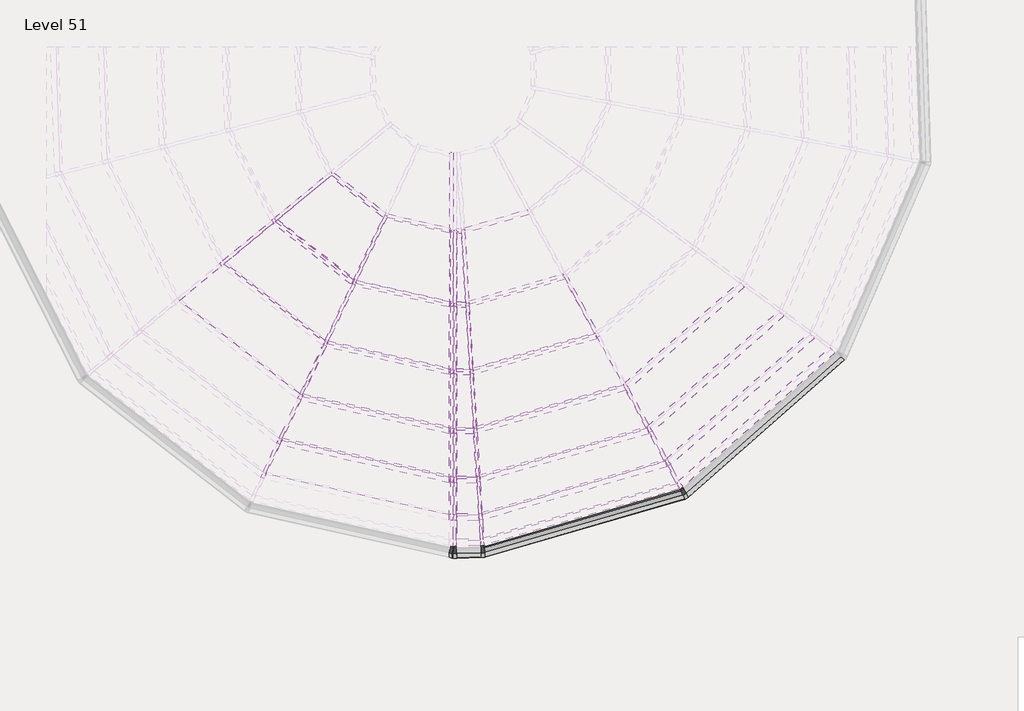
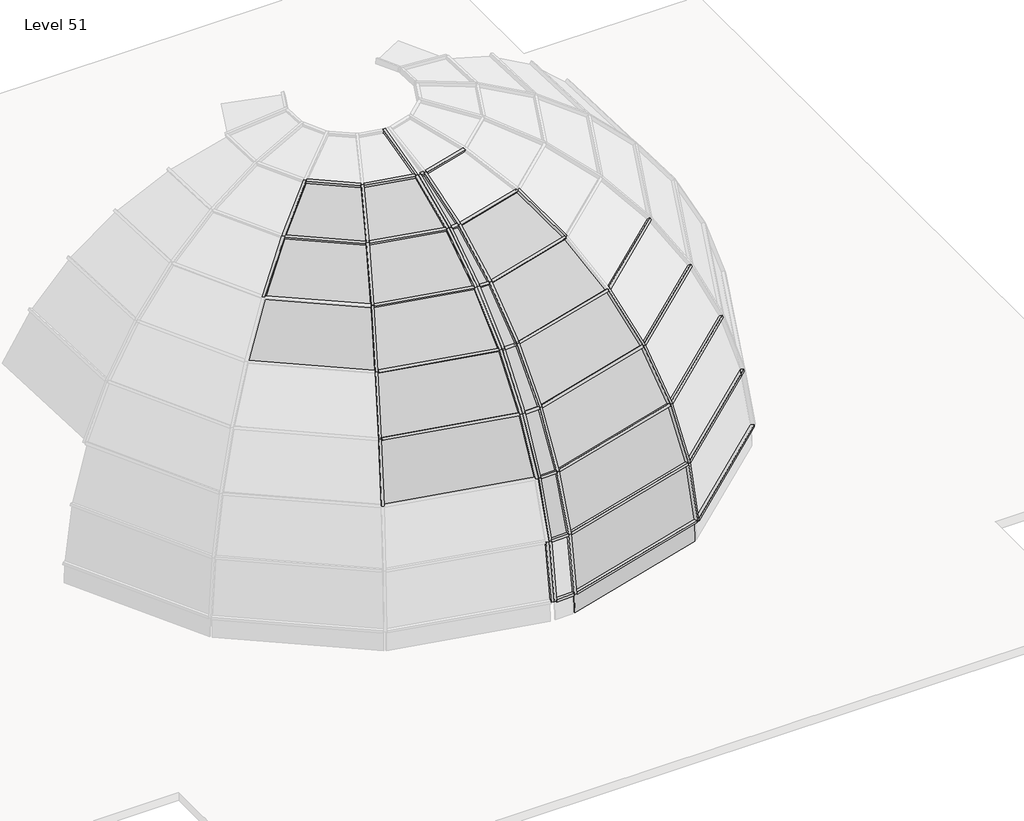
# One storey, part 2 of 5: 61 members, 21 plates.
"""IFC4 building model written with IfcOpenShell, lengths in millimetres."""

from ifc_helpers import new_model, si_unit, origin, place, context, project, spatial, transform, mapped, element, save
from components import member_d183bd50, member_3761eb40, member_c8fdef67, member_bab2e2f0, member_1b14bcb5, member_4ad3c4be, member_44404943, member_d9f9b3f1, member_bd7755a3, member_65743db0, member_8796500f, member_d21742c5, member_627e65e0, member_8f2bf440, member_7aba495a, member_8cadeb42, member_01029f2d, member_43068072, member_3efaebad, member_d292a8f8, member_6dba6968, member_1612663b, member_5eaec6db, member_6411af83, member_606bd935, member_34720ac7, member_73d42494, member_53f4afea, member_ac0e8256, member_b7186879, member_3d04d663, member_84afa52a, member_1f719ff4, member_3d2e33c7, member_de41bbd8, member_05436e89, member_70710cef, system_panel_glazed_fa418351, system_panel_glazed_b3b66b1f, system_panel_glazed_ead5900b, system_panel_glazed_748e87ae, system_panel_glazed_0b4b9341, system_panel_glazed_03609b2e, system_panel_glazed_facd528d, system_panel_glazed_891999a5, system_panel_glazed_df0c418a, system_panel_glazed_607d1a2e, system_panel_glazed_cbcbf4f6, system_panel_glazed_3a6c43c9, system_panel_glazed_65fa72c3, system_panel_glazed_e82b84bd, system_panel_glazed_8c73bb97, system_panel_glazed_11359935, system_panel_glazed_cbb9f742, system_panel_glazed_44e6ebe2, system_panel_glazed_4a3a9a20

model = new_model("IFC4")

# Units and contexts
model_context = context("Model", 3, world=origin())
ifc_project = project(units=[si_unit("LENGTHUNIT", "METRE", prefix="MILLI")], contexts=[model_context])

# Site, building, storey
site = spatial("IfcSite", under=ifc_project)
building = spatial("IfcBuilding", under=site)
storey = spatial("IfcBuildingStorey", under=building, Name="Level 51", Elevation=152400.0)

# Members
placement = place(None, origin())
member_shape = member_d183bd50(model_context)
element("IfcMember", 1, ObjectType="Rectangular Mullion : 2.5\" x 5\" rectangular", at=placement, inside=storey, context=model_context, shape_type="MappedRepresentation", body=[
    mapped(member_shape, transform((7928.9656184, -14165.5650135, 153025.5719668), x_axis=(0.046310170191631, -0.05261776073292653, -0.9975403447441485), y_axis=(0.65905543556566, -0.7488208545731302, 0.07009465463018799), z_axis=(-0.7506672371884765, -0.6606804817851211, 0.0))),
])
element("IfcMember", 2, ObjectType="Rectangular Mullion : 2.5\" x 5\" rectangular", at=placement, inside=storey, context=model_context, shape_type="MappedRepresentation", body=[
    mapped(member_shape, transform((4111.1962072, -15284.691929, 153025.5719668), x_axis=(0.01948884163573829, -0.06733086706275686, -0.9975403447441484), y_axis=(0.2773521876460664, -0.9582079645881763, 0.07009465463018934), z_axis=(-0.9605706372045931, -0.2780360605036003, 0.0))),
])
member_2_shape = member_3761eb40(model_context)
element("IfcMember", 3, ObjectType="Rectangular Mullion : 2.5\" x 5\" rectangular", at=placement, inside=storey, context=model_context, shape_type="MappedRepresentation", body=[
    mapped(member_2_shape, transform((3581.1067798, -15308.9521017, 153025.5719668), x_axis=(0.002113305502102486, -0.06841322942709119, -0.9976548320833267), y_axis=(0.030803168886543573, -0.9971791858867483, 0.06844586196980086), z_axis=(-0.9995232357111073, -0.030875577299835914, 0.0))),
])
member_3_shape = member_c8fdef67(model_context)
element("IfcMember", 4, ObjectType="Rectangular Mullion : 2.5\" x 5\" rectangular", at=placement, inside=storey, context=model_context, shape_type="MappedRepresentation", body=[
    mapped(member_3_shape, transform((3581.1067798, -14600.7492346, 155979.2538554), x_axis=(0.012090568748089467, -0.3914033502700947, -0.9201397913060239), y_axis=(0.028409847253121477, -0.9197011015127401, 0.39159004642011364), z_axis=(-0.9995232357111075, -0.030875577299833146, 0.0))),
])
member_4_shape = member_bab2e2f0(model_context)
element("IfcMember", 5, ObjectType="Rectangular Mullion : 2.5\" x 5\" rectangular", at=placement, inside=storey, context=model_context, shape_type="MappedRepresentation", body=[
    mapped(member_4_shape, transform((7818.0578931, -13963.3852376, 154532.0243606), x_axis=(0.15763498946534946, -0.17910536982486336, -0.9711191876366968), y_axis=(0.6415994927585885, -0.7289873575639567, 0.2385948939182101), z_axis=(-0.7506672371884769, -0.6606804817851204, 0.0))),
])
element("IfcMember", 6, ObjectType="Rectangular Mullion : 2.5\" x 5\" rectangular", at=placement, inside=storey, context=model_context, shape_type="MappedRepresentation", body=[
    mapped(member_4_shape, transform((4096.9630695, -15054.5298054, 154532.0243606), x_axis=(0.06633798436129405, -0.22918724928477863, -0.9711191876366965), y_axis=(0.2700061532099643, -0.9328285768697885, 0.23859489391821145), z_axis=(-0.9605706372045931, -0.27803606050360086, 0.0))),
])
member_5_shape = member_1b14bcb5(model_context)
element("IfcMember", 7, ObjectType="Rectangular Mullion : 2.5\" x 5\" rectangular", at=placement, inside=storey, context=model_context, shape_type="MappedRepresentation", body=[
    mapped(member_5_shape, transform((3581.1067798, -15078.3503121, 154532.0243606), x_axis=(0.007202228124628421, -0.23315497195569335, -0.9724129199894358), y_axis=(0.030023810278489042, -0.9719493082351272, 0.2332661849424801), z_axis=(-0.9995232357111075, -0.030875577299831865, 0.0))),
])
member_6_shape = member_4ad3c4be(model_context)
element("IfcMember", 8, ObjectType="Rectangular Mullion : 2.5\" x 5\" rectangular", at=placement, inside=storey, context=model_context, shape_type="MappedRepresentation", body=[
    mapped(member_6_shape, transform((7246.2407855, -12920.9884674, 157327.0596321), x_axis=(0.3621663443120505, -0.41149453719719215, -0.8363658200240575), y_axis=(0.5525705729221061, -0.62783241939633, 0.5481717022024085), z_axis=(-0.7506672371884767, -0.6606804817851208, 0.0))),
])
element("IfcMember", 9, ObjectType="Rectangular Mullion : 2.5\" x 5\" rectangular", at=placement, inside=storey, context=model_context, shape_type="MappedRepresentation", body=[
    mapped(member_6_shape, transform((4023.5799793, -13867.8618851, 157327.0596321), x_axis=(0.15241150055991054, -0.5265576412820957, -0.8363658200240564), y_axis=(0.23253985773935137, -0.8033884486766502, 0.5481717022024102), z_axis=(-0.9605706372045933, -0.27803606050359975, 0.0))),
])
member_7_shape = member_44404943(model_context)
element("IfcMember", 10, ObjectType="Rectangular Mullion : 2.5\" x 5\" rectangular", at=placement, inside=storey, context=model_context, shape_type="MappedRepresentation", body=[
    mapped(member_7_shape, transform((3581.1067798, -13889.4155658, 157327.0596321), x_axis=(0.016642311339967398, -0.5387551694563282, -0.8422979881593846), y_axis=(0.02600643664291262, -0.841896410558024, 0.5390121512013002), z_axis=(-0.9995232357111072, -0.030875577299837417, 0.0))),
])
member_8_shape = member_d9f9b3f1(model_context)
element("IfcMember", 11, ObjectType="Rectangular Mullion : 2.5\" x 5\" rectangular", at=placement, inside=storey, context=model_context, shape_type="MappedRepresentation", body=[
    mapped(member_8_shape, transform((4067.4847125, -14577.8393233, 155979.2538554), x_axis=(0.11109508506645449, -0.3838159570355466, -0.9167023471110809), y_axis=(0.2548763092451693, -0.8805573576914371, 0.3995707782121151), z_axis=(-0.9605706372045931, -0.27803606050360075, 0.0))),
])
element("IfcMember", 12, ObjectType="Rectangular Mullion : 2.5\" x 5\" rectangular", at=placement, inside=storey, context=model_context, shape_type="MappedRepresentation", body=[
    mapped(member_8_shape, transform((7588.3560801, -13544.6492034, 155979.2538554), x_axis=(0.2639886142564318, -0.2999446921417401, -0.9167023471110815), y_axis=(0.6056473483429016, -0.6881384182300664, 0.39957077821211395), z_axis=(-0.7506672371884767, -0.6606804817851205, 0.0))),
])
member_9_shape = member_bd7755a3(model_context)
element("IfcMember", 13, ObjectType="Rectangular Mullion : 2.5\" x 5\" rectangular", at=placement, inside=storey, context=model_context, shape_type="MappedRepresentation", body=[
    mapped(member_9_shape, transform((3897.7365439, -11832.8648931, 159578.4455769), x_axis=(0.22029247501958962, -0.7610756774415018, -0.6101106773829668), y_axis=(0.16963276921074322, -0.5860544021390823, 0.7923162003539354), z_axis=(-0.9605706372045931, -0.27803606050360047, 0.0))),
])
member_10_shape = member_65743db0(model_context)
element("IfcMember", 14, ObjectType="Rectangular Mullion : 2.5\" x 5\" rectangular", at=placement, inside=storey, context=model_context, shape_type="MappedRepresentation", body=[
    mapped(member_10_shape, transform((1136.1578333, -11319.9768884, 159578.4455769), x_axis=(-0.1728975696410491, -0.7732214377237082, -0.6101106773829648), y_axis=(-0.13313706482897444, -0.5954070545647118, 0.7923162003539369), z_axis=(-0.975900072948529, 0.21821789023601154, 0.0))),
])
member_11_shape = member_8796500f(model_context)
element("IfcMember", 15, ObjectType="Rectangular Mullion : 2.5\" x 5\" rectangular", at=placement, inside=storey, context=model_context, shape_type="MappedRepresentation", body=[
    mapped(member_11_shape, transform((3581.1067798, -10579.6162425, 160419.4872466), x_axis=(0.02708153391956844, -0.8767001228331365, -0.48027438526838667), y_axis=(0.014828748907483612, -0.4800454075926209, 0.8771183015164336), z_axis=(-0.9995232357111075, -0.030875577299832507, 0.0))),
])
member_12_shape = member_d21742c5(model_context)
element("IfcMember", 16, ObjectType="Rectangular Mullion : 2.5\" x 5\" rectangular", at=placement, inside=storey, context=model_context, shape_type="MappedRepresentation", body=[
    mapped(member_12_shape, transform((156.8135256, -9007.1230151, 160419.4872466), x_axis=(-0.540671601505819, -0.6966994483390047, -0.4714701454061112), y_axis=(-0.2890528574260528, -0.3724681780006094, 0.8818820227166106), z_axis=(-0.7900143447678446, 0.6130883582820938, 0.0))),
])
element("IfcMember", 17, ObjectType="Rectangular Mullion : 2.5\" x 5\" rectangular", at=placement, inside=storey, context=model_context, shape_type="MappedRepresentation", body=[
    mapped(member_12_shape, transform((3819.2934926, -10564.3730336, 160419.4872466), x_axis=(0.24519500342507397, -0.8471099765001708, -0.4714701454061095), y_axis=(0.13108570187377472, -0.45288037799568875, 0.8818820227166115), z_axis=(-0.9605706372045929, -0.27803606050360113, 0.0))),
])
member_13_shape = member_627e65e0(model_context)
element("IfcMember", 18, ObjectType="Rectangular Mullion : 2.5\" x 5\" rectangular", at=placement, inside=storey, context=model_context, shape_type="MappedRepresentation", body=[
    mapped(member_13_shape, transform((1677.4630352, -10170.101422, 160419.4872466), x_axis=(-0.1924424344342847, -0.8606287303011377, -0.47147014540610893), y_axis=(-0.1028832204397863, -0.46010774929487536, 0.8818820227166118), z_axis=(-0.9759000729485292, 0.21821789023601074, 0.0))),
])
member_14_shape = member_8f2bf440(model_context)
element("IfcMember", 19, ObjectType="Rectangular Mullion : 2.5\" x 5\" rectangular", at=placement, inside=storey, context=model_context, shape_type="MappedRepresentation", body=[
    mapped(member_14_shape, transform((1230.3711344, -8119.5520556, 161037.7653816), x_axis=(-0.5806365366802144, -0.7481975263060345, -0.321032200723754), y_axis=(-0.19682110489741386, -0.25362004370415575, 0.9470682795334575), z_axis=(-0.7900143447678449, 0.6130883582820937, 0.0))),
])
element("IfcMember", 20, ObjectType="Rectangular Mullion : 2.5\" x 5\" rectangular", at=placement, inside=storey, context=model_context, shape_type="MappedRepresentation", body=[
    mapped(member_14_shape, transform((3733.3182657, -9174.0793927, 161037.7653816), x_axis=(0.26331913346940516, -0.9097259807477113, -0.32103220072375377), y_axis=(0.08925852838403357, -0.308374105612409, 0.9470682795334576), z_axis=(-0.9605706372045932, -0.27803606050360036, 0.0))),
])
member_15_shape = member_7aba495a(model_context)
element("IfcMember", 21, ObjectType="Rectangular Mullion : 2.5\" x 5\" rectangular", at=placement, inside=storey, context=model_context, shape_type="MappedRepresentation", body=[
    mapped(member_15_shape, transform((2270.7448716, -8909.8138317, 161037.7653816), x_axis=(-0.20666724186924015, -0.9242440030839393, -0.32103220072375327), y_axis=(-0.07005496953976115, -0.3132953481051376, 0.9470682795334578), z_axis=(-0.975900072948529, 0.21821789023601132, 0.0))),
])
member_16_shape = member_8cadeb42(model_context)
element("IfcMember", 22, ObjectType="Rectangular Mullion : 2.5\" x 5\" rectangular", at=placement, inside=storey, context=model_context, shape_type="MappedRepresentation", body=[
    mapped(member_16_shape, transform((3581.1067798, -9186.6668006, 161037.7653816), x_axis=(0.029167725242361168, -0.9442355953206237, -0.32797619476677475), y_axis=(0.010126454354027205, -0.3278198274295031, 0.9446859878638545), z_axis=(-0.9995232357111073, -0.030875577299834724, 0.0))),
])
member_17_shape = member_01029f2d(model_context)
element("IfcMember", 23, ObjectType="Rectangular Mullion : 2.5\" x 5\" rectangular", at=placement, inside=storey, context=model_context, shape_type="MappedRepresentation", body=[
    mapped(member_17_shape, transform((6801.2152117, -12109.726939, 158538.0026411), x_axis=(0.44940619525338, -0.5106167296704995, -0.7330106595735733), y_axis=(0.48428583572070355, -0.550247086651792, 0.6802171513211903), z_axis=(-0.7506672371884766, -0.6606804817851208, 0.0))),
])
element("IfcMember", 24, ObjectType="Rectangular Mullion : 2.5\" x 5\" rectangular", at=placement, inside=storey, context=model_context, shape_type="MappedRepresentation", body=[
    mapped(member_17_shape, transform((3966.4684459, -12944.3190861, 158538.0026411), x_axis=(0.18912489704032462, -0.6533966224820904, -0.7330106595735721), y_axis=(0.20380339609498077, -0.7041085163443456, 0.6802171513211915), z_axis=(-0.9605706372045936, -0.2780360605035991, 0.0))),
])
member_18_shape = member_43068072(model_context)
element("IfcMember", 25, ObjectType="Rectangular Mullion : 2.5\" x 5\" rectangular", at=placement, inside=storey, context=model_context, shape_type="MappedRepresentation", body=[
    mapped(member_18_shape, transform((3581.1067798, -12964.1085742, 158538.0026411), x_axis=(0.02073097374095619, -0.6711158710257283, -0.7410625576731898), y_axis=(0.022880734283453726, -0.7407092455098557, 0.6714359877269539), z_axis=(-0.9995232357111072, -0.03087557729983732, 0.0))),
])
member_19_shape = member_3efaebad(model_context)
element("IfcMember", 26, ObjectType="Rectangular Mullion : 2.5\" x 5\" rectangular", at=placement, inside=storey, context=model_context, shape_type="MappedRepresentation", body=[
    mapped(member_19_shape, transform((267.7608868, -13164.681762, 157327.0596321), x_axis=(-0.11962087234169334, -0.5349608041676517, -0.836365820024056), y_axis=(-0.18250998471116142, -0.8162094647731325, 0.5481717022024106), z_axis=(-0.9759000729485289, 0.21821789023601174, 0.0))),
])
member_20_shape = member_d292a8f8(model_context)
element("IfcMember", 27, ObjectType="Rectangular Mullion : 2.5\" x 5\" rectangular", at=placement, inside=storey, context=model_context, shape_type="MappedRepresentation", body=[
    mapped(member_20_shape, transform((3581.1067798, -11850.5312318, 159578.4455769), x_axis=(0.024243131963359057, -0.7848136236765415, -0.6192574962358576), y_axis=(0.019119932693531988, -0.6189622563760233, 0.785187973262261), z_axis=(-0.9995232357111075, -0.03087557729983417, 0.0))),
])
member_21_shape = member_6dba6968(model_context)
element("IfcMember", 28, ObjectType="Rectangular Mullion : 2.5\" x 5\" rectangular", at=placement, inside=storey, context=model_context, shape_type="MappedRepresentation", body=[
    mapped(member_21_shape, transform((661.8655218, -12327.4992458, 158538.0026411), x_axis=(-0.14843555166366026, -0.663823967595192, -0.7330106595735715), y_axis=(-0.15995603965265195, -0.7153451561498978, 0.6802171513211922), z_axis=(-0.975900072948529, 0.2182178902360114, 0.0))),
])
member_22_shape = member_1612663b(model_context)
element("IfcMember", 29, ObjectType="Rectangular Mullion : 2.5\" x 5\" rectangular", at=placement, inside=storey, context=model_context, shape_type="MappedRepresentation", body=[
    mapped(member_22_shape, transform((1205.288179, -8100.0865002, 161037.7653816), x_axis=(-0.6371882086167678, 0.7707082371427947, 0.0), y_axis=(-0.31267194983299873, -0.2585036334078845, 0.9140088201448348), z_axis=(0.7044341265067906, 0.5823956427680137, 0.4056943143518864))),
])
element("IfcMember", 30, ObjectType="Rectangular Mullion : 2.5\" x 5\" rectangular", at=placement, inside=storey, context=model_context, shape_type="MappedRepresentation", body=[
    mapped(member_22_shape, transform((131.7305702, -8987.6574598, 160419.4872466), x_axis=(-0.6371882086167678, 0.7707082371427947, 0.0), y_axis=(-0.4253266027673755, -0.35164162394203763, 0.8339337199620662), z_axis=(0.6427195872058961, 0.5313727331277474, 0.5518646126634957))),
])
element("IfcMember", 31, ObjectType="Rectangular Mullion : 2.5\" x 5\" rectangular", at=placement, inside=storey, context=model_context, shape_type="MappedRepresentation", body=[
    mapped(member_22_shape, transform((2239.7600443, -8902.8854136, 161037.7653816), x_axis=(-0.9047619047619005, 0.4259177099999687, 0.0), y_axis=(-0.1727923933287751, -0.36705676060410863, 0.9140088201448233), z_axis=(0.38929254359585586, 0.8269603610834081, 0.4056943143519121))),
])
element("IfcMember", 32, ObjectType="Rectangular Mullion : 2.5\" x 5\" rectangular", at=placement, inside=storey, context=model_context, shape_type="MappedRepresentation", body=[
    mapped(member_22_shape, transform((1646.4782078, -10163.1730039, 160419.4872466), x_axis=(-0.9047619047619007, 0.4259177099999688, 0.0), y_axis=(-0.23504891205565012, -0.4993060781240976, 0.8339337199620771), z_axis=(0.35518714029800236, 0.7545114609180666, 0.5518646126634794))),
])
element("IfcMember", 33, ObjectType="Rectangular Mullion : 2.5\" x 5\" rectangular", at=placement, inside=storey, context=model_context, shape_type="MappedRepresentation", body=[
    mapped(member_22_shape, transform((1105.173006, -11313.0484704, 159578.4455769), x_axis=(-0.9047619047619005, 0.4259177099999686, 0.0), y_axis=(-0.290776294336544, -0.6176857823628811, 0.7306937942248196), z_axis=(0.31121542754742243, 0.6611039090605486, 0.6827053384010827))),
])
element("IfcMember", 34, ObjectType="Rectangular Mullion : 2.5\" x 5\" rectangular", at=placement, inside=storey, context=model_context, shape_type="MappedRepresentation", body=[
    mapped(member_22_shape, transform((630.8806944, -12320.5708278, 158538.0026411), x_axis=(-0.9047619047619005, 0.42591770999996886, 0.0), y_axis=(-0.3384265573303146, -0.7189075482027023, 0.6071568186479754), z_axis=(0.2585988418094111, 0.5493323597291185, 0.7945820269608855))),
])
element("IfcMember", 35, ObjectType="Rectangular Mullion : 2.5\" x 5\" rectangular", at=placement, inside=storey, context=model_context, shape_type="MappedRepresentation", body=[
    mapped(member_22_shape, transform((236.7760595, -13157.753344, 157327.0596321), x_axis=(-0.9047619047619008, 0.4259177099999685, 0.0), y_axis=(-0.37667608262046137, -0.8001596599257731, 0.46675437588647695), z_axis=(0.19879895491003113, 0.42230157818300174, 0.8843869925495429))),
])
element("IfcMember", 36, ObjectType="Rectangular Mullion : 2.5\" x 5\" rectangular", at=placement, inside=storey, context=model_context, shape_type="MappedRepresentation", body=[
    mapped(member_22_shape, transform((5630.5620632, -10040.1034397, 160419.4872466), x_axis=(-0.876748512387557, -0.4809491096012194, 0.0), y_axis=(0.2654187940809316, -0.48384647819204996, 0.8339337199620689), z_axis=(-0.4010796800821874, 0.7311501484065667, 0.5518646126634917))),
])
element("IfcMember", 37, ObjectType="Rectangular Mullion : 2.5\" x 5\" rectangular", at=placement, inside=storey, context=model_context, shape_type="MappedRepresentation", body=[
    mapped(member_22_shape, transform((6777.3815269, -12130.7035443, 158538.0026411), x_axis=(-0.8767485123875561, -0.48094910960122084, 0.0), y_axis=(0.382153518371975, -0.6966486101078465, 0.607156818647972), z_axis=(-0.29201153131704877, 0.5323238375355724, 0.7945820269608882))),
])
element("IfcMember", 38, ObjectType="Rectangular Mullion : 2.5\" x 5\" rectangular", at=placement, inside=storey, context=model_context, shape_type="MappedRepresentation", body=[
    mapped(member_22_shape, transform((7222.4071007, -12941.9650727, 157327.0596321), x_axis=(-0.8767485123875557, -0.48094910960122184, 0.0), y_axis=(0.4253451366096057, -0.7753849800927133, 0.4667543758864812), z_axis=(-0.22448510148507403, 0.4092262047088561, 0.8843869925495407))),
])
element("IfcMember", 39, ObjectType="Rectangular Mullion : 2.5\" x 5\" rectangular", at=placement, inside=storey, context=model_context, shape_type="MappedRepresentation", body=[
    mapped(member_22_shape, transform((7564.5223953, -13565.6258087, 155979.2538554), x_axis=(-0.8767485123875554, -0.48094910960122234, 0.0), y_axis=(0.45672161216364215, -0.8325828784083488, 0.313386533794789), z_axis=(-0.15072297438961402, 0.27476117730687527, 0.9496256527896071))),
])
element("IfcMember", 40, ObjectType="Rectangular Mullion : 2.5\" x 5\" rectangular", at=placement, inside=storey, context=model_context, shape_type="MappedRepresentation", body=[
    mapped(member_22_shape, transform((3702.820148, -9182.9070376, 161037.7653816), x_axis=(-0.9980933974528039, -0.061721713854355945, 0.0), y_axis=(0.02504014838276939, -0.40492081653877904, 0.9140088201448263), z_axis=(-0.05641419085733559, 0.9122661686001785, 0.40569431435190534))),
])
element("IfcMember", 41, ObjectType="Rectangular Mullion : 2.5\" x 5\" rectangular", at=placement, inside=storey, context=model_context, shape_type="MappedRepresentation", body=[
    mapped(member_22_shape, transform((3788.7953748, -10573.2006786, 160419.4872466), x_axis=(-0.9980933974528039, -0.06172171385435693, 0.0), y_axis=(0.034062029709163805, -0.5508124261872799, 0.833933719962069), z_axis=(-0.05147181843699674, 0.8323437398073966, 0.5518646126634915))),
])
element("IfcMember", 42, ObjectType="Rectangular Mullion : 2.5\" x 5\" rectangular", at=placement, inside=storey, context=model_context, shape_type="MappedRepresentation", body=[
    mapped(member_22_shape, transform((3867.2384261, -11841.692538, 159578.4455769), x_axis=(-0.9980933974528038, -0.06172171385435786, 0.0), y_axis=(0.04213774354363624, -0.6814036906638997, 0.7306937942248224), z_axis=(-0.045099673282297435, 0.729300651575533, 0.6827053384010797))),
])
element("IfcMember", 43, ObjectType="Rectangular Mullion : 2.5\" x 5\" rectangular", at=placement, inside=storey, context=model_context, shape_type="MappedRepresentation", body=[
    mapped(member_22_shape, transform((3935.9703282, -12953.146731, 158538.0026411), x_axis=(-0.9980933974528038, -0.061721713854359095, 0.0), y_axis=(0.04904296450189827, -0.7930670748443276, 0.6071568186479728), z_axis=(-0.03747475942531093, 0.6059992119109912, 0.7945820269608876))),
])
element("IfcMember", 44, ObjectType="Rectangular Mullion : 2.5\" x 5\" rectangular", at=placement, inside=storey, context=model_context, shape_type="MappedRepresentation", body=[
    mapped(member_22_shape, transform((3993.0818616, -13876.68953, 157327.0596321), x_axis=(-0.9980933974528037, -0.061721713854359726, 0.0), y_axis=(0.05458588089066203, -0.8827008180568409, 0.4667543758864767), z_axis=(-0.028808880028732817, 0.4658644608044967, 0.8843869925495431))),
])
element("IfcMember", 45, ObjectType="Rectangular Mullion : 2.5\" x 5\" rectangular", at=placement, inside=storey, context=model_context, shape_type="MappedRepresentation", body=[
    mapped(member_22_shape, transform((4036.9865947, -14586.6669682, 155979.2538554), x_axis=(-0.9980933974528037, -0.061721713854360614, 0.0), y_axis=(0.05861252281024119, -0.9478150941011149, 0.31338653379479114), z_axis=(-0.019342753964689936, 0.312789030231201, 0.9496256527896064))),
])
member_23_shape = member_5eaec6db(model_context)
element("IfcMember", 46, ObjectType="Rectangular Mullion : 2.5\" x 5\" rectangular", at=placement, inside=storey, context=model_context, shape_type="MappedRepresentation", body=[
    mapped(member_23_shape, transform((7794.2242083, -13984.3618429, 154532.0243606), x_axis=(-0.8767485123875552, -0.48094910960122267, 0.0), y_axis=(0.4754113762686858, -0.8666534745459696, 0.151313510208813), z_axis=(-0.072774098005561, 0.13266389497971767, 0.9884858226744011))),
])
element("IfcMember", 47, ObjectType="Rectangular Mullion : 2.5\" x 5\" rectangular", at=placement, inside=storey, context=model_context, shape_type="MappedRepresentation", body=[
    mapped(member_23_shape, transform((4066.4649518, -15063.3574503, 154532.0243606), x_axis=(-0.9980933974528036, -0.06172171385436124, 0.0), y_axis=(0.06101103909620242, -0.9866011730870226, 0.15131351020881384), z_axis=(-0.009339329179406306, 0.15102501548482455, 0.988485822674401))),
])
member_24_shape = member_6411af83(model_context)
element("IfcMember", 48, ObjectType="Rectangular Mullion : 2.5\" x 5\" rectangular", at=placement, inside=storey, context=model_context, shape_type="MappedRepresentation", body=[
    mapped(member_24_shape, transform((3517.6370544, -14602.7098338, 155979.2538554), x_axis=(-0.9995700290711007, -0.027844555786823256, 0.009188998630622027), y_axis=(0.029321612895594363, -0.949217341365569, 0.31325178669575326), z_axis=(0.0, 0.31338653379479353, 0.9496256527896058))),
])
member_25_shape = member_606bd935(model_context)
element("IfcMember", 49, ObjectType="Rectangular Mullion : 2.5\" x 5\" rectangular", at=placement, inside=storey, context=model_context, shape_type="MappedRepresentation", body=[
    mapped(member_25_shape, transform((3517.6370544, -15080.3109113, 154532.0243606), x_axis=(-0.9995341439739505, -0.030168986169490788, 0.004618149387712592), y_axis=(0.0305204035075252, -0.988025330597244, 0.15124301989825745), z_axis=(0.0, 0.15131351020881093, 0.9884858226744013))),
])
member_26_shape = member_34720ac7(model_context)
element("IfcMember", 50, ObjectType="Rectangular Mullion : 2.5\" x 5\" rectangular", at=placement, inside=storey, context=model_context, shape_type="MappedRepresentation", body=[
    mapped(member_26_shape, transform((3517.6370544, -9188.6273998, 161037.7653816), x_axis=(0.9984627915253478, -0.013759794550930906, 0.053690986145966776), y_axis=(-0.055426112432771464, -0.2478731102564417, 0.9672057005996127), z_axis=(0.0, -0.9686947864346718, -0.2482547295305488))),
])
member_27_shape = member_73d42494(model_context)
element("IfcMember", 51, ObjectType="Rectangular Mullion : 2.5\" x 5\" rectangular", at=placement, inside=storey, context=model_context, shape_type="MappedRepresentation", body=[
    mapped(member_27_shape, transform((3517.6370544, -10581.5768417, 160419.4872466), x_axis=(0.9959105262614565, -0.03665246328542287, 0.08257615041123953), y_axis=(-0.09034502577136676, -0.40403523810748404, 0.910271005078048), z_axis=(0.0, -0.9140088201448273, -0.40569431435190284))),
])
member_28_shape = member_53f4afea(model_context)
element("IfcMember", 52, ObjectType="Rectangular Mullion : 2.5\" x 5\" rectangular", at=placement, inside=storey, context=model_context, shape_type="MappedRepresentation", body=[
    mapped(member_28_shape, transform((3517.6370544, -11852.4918309, 159578.4455769), x_axis=(0.9924720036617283, -0.06758780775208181, 0.10213329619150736), y_axis=(-0.12247171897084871, -0.5477101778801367, 0.8276558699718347), z_axis=(0.0, -0.8339337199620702, -0.5518646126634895))),
])
member_29_shape = member_ac0e8256(model_context)
element("IfcMember", 53, ObjectType="Rectangular Mullion : 2.5\" x 5\" rectangular", at=placement, inside=storey, context=model_context, shape_type="MappedRepresentation", body=[
    mapped(member_29_shape, transform((3517.6370544, -12966.0691733, 158538.0026411), x_axis=(0.9885476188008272, -0.10302655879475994, 0.11026846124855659), y_axis=(-0.15090926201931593, -0.6748867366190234, 0.7223256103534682), z_axis=(0.0, -0.7306937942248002, -0.6827053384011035))),
])
member_30_shape = member_b7186879(model_context)
element("IfcMember", 54, ObjectType="Rectangular Mullion : 2.5\" x 5\" rectangular", at=placement, inside=storey, context=model_context, shape_type="MappedRepresentation", body=[
    mapped(member_30_shape, transform((3517.6370544, -13891.3761649, 157327.0596321), x_axis=(0.9845801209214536, -0.13899959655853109, 0.10621251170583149), y_axis=(-0.17493423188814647, -0.7823296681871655, 0.5977945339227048), z_axis=(0.0, -0.6071568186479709, -0.7945820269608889))),
])
member_31_shape = member_3d04d663(model_context)
element("IfcMember", 55, ObjectType="Rectangular Mullion : 2.5\" x 5\" rectangular", at=placement, inside=storey, context=model_context, shape_type="MappedRepresentation", body=[
    mapped(member_31_shape, transform((3517.6370544, -14602.7098338, 155979.2538554), x_axis=(0.9810019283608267, -0.17156929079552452, 0.09054940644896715), y_axis=(-0.1939979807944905, -0.8675853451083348, 0.4578869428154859), z_axis=(0.0, -0.4667543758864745, -0.8843869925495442))),
])
member_32_shape = member_84afa52a(model_context)
element("IfcMember", 56, ObjectType="Rectangular Mullion : 2.5\" x 5\" rectangular", at=placement, inside=storey, context=model_context, shape_type="MappedRepresentation", body=[
    mapped(member_32_shape, transform((3517.6370544, -15310.9127008, 153025.5719668), x_axis=(0.9764325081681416, -0.2133379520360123, 0.03265693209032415), y_axis=(-0.2158229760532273, -0.9651896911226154, 0.14774743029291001), z_axis=(0.0, -0.1513135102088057, -0.9884858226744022))),
])
member_33_shape = member_1f719ff4(model_context)
element("IfcMember", 57, ObjectType="Rectangular Mullion : 2.5\" x 5\" rectangular", at=placement, inside=storey, context=model_context, shape_type="MappedRepresentation", body=[
    mapped(member_33_shape, transform((3517.6370544, -9188.6273998, 161037.7653816), x_axis=(-0.9999214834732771, -0.005083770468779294, 0.011453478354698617), y_axis=(0.01253103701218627, -0.4056624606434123, 0.9139370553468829), z_axis=(0.0, 0.9140088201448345, 0.40569431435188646))),
])
member_34_shape = member_3d2e33c7(model_context)
element("IfcMember", 58, ObjectType="Rectangular Mullion : 2.5\" x 5\" rectangular", at=placement, inside=storey, context=model_context, shape_type="MappedRepresentation", body=[
    mapped(member_34_shape, transform((3517.6370544, -10581.5768417, 160419.4872466), x_axis=(-0.9998547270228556, -0.009406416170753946, 0.014214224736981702), y_axis=(0.017044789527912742, -0.5517844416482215, 0.8338125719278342), z_axis=(0.0, 0.8339337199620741, 0.5518646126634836))),
])
member_35_shape = member_de41bbd8(model_context)
element("IfcMember", 59, ObjectType="Rectangular Mullion : 2.5\" x 5\" rectangular", at=placement, inside=storey, context=model_context, shape_type="MappedRepresentation", body=[
    mapped(member_35_shape, transform((3517.6370544, -11852.4918309, 159578.4455769), x_axis=(-0.999777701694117, -0.01439435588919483, 0.015406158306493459), y_axis=(0.021084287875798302, -0.6825535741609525, 0.7305313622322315), z_axis=(0.0, 0.730693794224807, 0.6827053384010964))),
])
member_36_shape = member_05436e89(model_context)
element("IfcMember", 60, ObjectType="Rectangular Mullion : 2.5\" x 5\" rectangular", at=placement, inside=storey, context=model_context, shape_type="MappedRepresentation", body=[
    mapped(member_36_shape, transform((3517.6370544, -12966.0691733, 158538.0026411), x_axis=(-0.9996989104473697, -0.01949704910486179, 0.014898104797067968), y_axis=(0.024537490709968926, -0.7943427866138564, 0.6069740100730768), z_axis=(0.0, 0.60715681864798, 0.7945820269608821))),
])
member_37_shape = member_70710cef(model_context)
element("IfcMember", 61, ObjectType="Rectangular Mullion : 2.5\" x 5\" rectangular", at=placement, inside=storey, context=model_context, shape_type="MappedRepresentation", body=[
    mapped(member_37_shape, transform((3517.6370544, -13891.3761649, 157327.0596321), x_axis=(-0.9996270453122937, -0.024151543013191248, 0.012746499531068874), y_axis=(0.027308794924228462, -0.8840571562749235, 0.4665802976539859), z_axis=(0.0, 0.4667543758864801, 0.8843869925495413))),
])

# Plates
system_panel_glazed_shape = system_panel_glazed_fa418351(model_context)
element("IfcPlate", 62, ObjectType="System Panel : Glazed", at=placement, inside=storey, context=model_context, shape_type="MappedRepresentation", body=[
    mapped(system_panel_glazed_shape, transform((2856.5817317, -9070.4257554, 161024.6204715), x_axis=(-0.9759000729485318, 0.21821789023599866, 0.0), y_axis=(0.09034502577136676, 0.40403523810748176, -0.9102710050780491), z_axis=(-0.19863741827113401, -0.8883335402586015, -0.41401291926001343))),
])
system_panel_glazed_2_shape = system_panel_glazed_b3b66b1f(model_context)
element("IfcPlate", 63, ObjectType="System Panel : Glazed", at=placement, inside=storey, context=model_context, shape_type="MappedRepresentation", body=[
    mapped(system_panel_glazed_2_shape, transform((1704.805181, -8524.318244, 161024.6204715), x_axis=(-0.7900143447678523, 0.6130883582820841, 0.0), y_axis=(0.25382650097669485, 0.32707614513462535, -0.910271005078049), z_axis=(-0.5580765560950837, -0.7191271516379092, -0.4140129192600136))),
])
system_panel_glazed_3_shape = system_panel_glazed_ead5900b(model_context)
element("IfcPlate", 64, ObjectType="System Panel : Glazed", at=placement, inside=storey, context=model_context, shape_type="MappedRepresentation", body=[
    mapped(system_panel_glazed_3_shape, transform((3626.9982868, -9214.2805406, 161024.879455), x_axis=(-0.9995232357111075, -0.030875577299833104, 0.0), y_axis=(-0.01253103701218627, 0.4056624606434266, -0.9139370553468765), z_axis=(0.02821833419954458, -0.9135013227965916, -0.40585595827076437))),
])
system_panel_glazed_4_shape = system_panel_glazed_748e87ae(model_context)
element("IfcPlate", 65, ObjectType="System Panel : Glazed", at=placement, inside=storey, context=model_context, shape_type="MappedRepresentation", body=[
    mapped(system_panel_glazed_4_shape, transform((2560.5677922, -10394.4966617, 160401.668006), x_axis=(-0.9759000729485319, 0.2182178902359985, 0.0), y_axis=(0.12247171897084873, 0.5477101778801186, -0.8276558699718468), z_axis=(-0.18060931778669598, -0.8077094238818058, -0.5612359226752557))),
])
system_panel_glazed_5_shape = system_panel_glazed_0b4b9341(model_context)
element("IfcPlate", 66, ObjectType="System Panel : Glazed", at=placement, inside=storey, context=model_context, shape_type="MappedRepresentation", body=[
    mapped(system_panel_glazed_5_shape, transform((872.9936078, -9596.1752872, 160401.668006), x_axis=(-0.7900143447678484, 0.6130883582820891, 0.0), y_axis=(0.34408721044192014, 0.44338442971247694, -0.8276558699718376), z_axis=(-0.5074261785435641, -0.6538600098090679, -0.5612359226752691))),
])
element("IfcPlate", 67, ObjectType="System Panel : Glazed", at=placement, inside=storey, context=model_context, shape_type="MappedRepresentation", body=[
    mapped(system_panel_glazed_5_shape, transform((4716.9849712, -10331.8940053, 160401.668006), x_axis=(-0.9605706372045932, -0.27803606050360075, 0.0), y_axis=(-0.1560438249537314, 0.5391067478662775, -0.827655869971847), z_axis=(0.2301181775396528, -0.795021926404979, -0.5612359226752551))),
])
system_panel_glazed_6_shape = system_panel_glazed_03609b2e(model_context)
element("IfcPlate", 68, ObjectType="System Panel : Glazed", at=placement, inside=storey, context=model_context, shape_type="MappedRepresentation", body=[
    mapped(system_panel_glazed_6_shape, transform((3669.9062945, -10603.3593753, 160401.9597341), x_axis=(-0.9995232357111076, -0.030875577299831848, 0.0), y_axis=(-0.017044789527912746, 0.5517844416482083, -0.8338125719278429), z_axis=(0.025744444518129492, -0.8334150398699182, -0.5520476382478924))),
])
system_panel_glazed_7_shape = system_panel_glazed_facd528d(model_context)
element("IfcPlate", 69, ObjectType="System Panel : Glazed", at=placement, inside=storey, context=model_context, shape_type="MappedRepresentation", body=[
    mapped(system_panel_glazed_7_shape, transform((2290.707263, -11601.6421802, 159556.4887654), x_axis=(-0.9759000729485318, 0.2182178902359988, 0.0), y_axis=(0.15090926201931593, 0.6748867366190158, -0.7223256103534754), z_axis=(-0.15762437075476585, -0.7049176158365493, -0.6915531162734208))),
])
system_panel_glazed_8_shape = system_panel_glazed_891999a5(model_context)
element("IfcPlate", 70, ObjectType="System Panel : Glazed", at=placement, inside=storey, context=model_context, shape_type="MappedRepresentation", body=[
    mapped(system_panel_glazed_8_shape, transform((114.6389935, -10573.3770488, 159556.4887654), x_axis=(-0.7900143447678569, 0.6130883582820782, 0.0), y_axis=(0.4239831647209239, 0.546336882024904, -0.7223256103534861), z_axis=(-0.44284942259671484, -0.5706475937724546, -0.6915531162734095))),
])
element("IfcPlate", 71, ObjectType="System Panel : Glazed", at=placement, inside=storey, context=model_context, shape_type="MappedRepresentation", body=[
    mapped(system_panel_glazed_8_shape, transform((5060.8993949, -11520.0639735, 159556.4887654), x_axis=(-0.9605706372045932, -0.2780360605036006, 0.0), y_axis=(-0.19227670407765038, 0.6642856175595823, -0.7223256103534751), z_axis=(0.20083256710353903, -0.6938447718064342, -0.6915531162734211))),
])
system_panel_glazed_9_shape = system_panel_glazed_df0c418a(model_context)
element("IfcPlate", 72, ObjectType="System Panel : Glazed", at=placement, inside=storey, context=model_context, shape_type="MappedRepresentation", body=[
    mapped(system_panel_glazed_9_shape, transform((3709.0253509, -11869.7852224, 159556.764164), x_axis=(-0.9995232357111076, -0.030875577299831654, 0.0), y_axis=(-0.021084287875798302, 0.6825535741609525, -0.7305313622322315), z_axis=(0.02255557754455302, -0.7301830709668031, -0.6828791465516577))),
])
system_panel_glazed_10_shape = system_panel_glazed_607d1a2e(model_context)
element("IfcPlate", 73, ObjectType="System Panel : Glazed", at=placement, inside=storey, context=model_context, shape_type="MappedRepresentation", body=[
    mapped(system_panel_glazed_10_shape, transform((2054.4868946, -12658.3475399, 158512.550274), x_axis=(-0.9759000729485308, 0.2182178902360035, 0.0), y_axis=(0.17493423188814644, 0.7823296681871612, -0.5977945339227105), z_axis=(-0.13044946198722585, -0.5833877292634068, -0.8016493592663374))),
])
system_panel_glazed_11_shape = system_panel_glazed_cbcbf4f6(model_context)
element("IfcPlate", 74, ObjectType="System Panel : Glazed", at=placement, inside=storey, context=model_context, shape_type="MappedRepresentation", body=[
    mapped(system_panel_glazed_11_shape, transform((5361.9530455, -12560.1567457, 158512.550274), x_axis=(-0.9605706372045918, -0.2780360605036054, 0.0), y_axis=(-0.22288742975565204, 0.7700408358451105, -0.5977945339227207), z_axis=(0.16620843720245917, -0.5742238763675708, -0.8016493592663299))),
])
system_panel_glazed_12_shape = system_panel_glazed_3a6c43c9(model_context)
element("IfcPlate", 75, ObjectType="System Panel : Glazed", at=placement, inside=storey, context=model_context, shape_type="MappedRepresentation", body=[
    mapped(system_panel_glazed_12_shape, transform((3743.2689279, -12978.3799531, 158512.7702278), x_axis=(-0.9995232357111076, -0.0308755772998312, 0.0), y_axis=(-0.024537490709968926, 0.7943427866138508, -0.606974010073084), z_axis=(0.018740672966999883, -0.6066846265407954, -0.7947216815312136))),
])
system_panel_glazed_13_shape = system_panel_glazed_65fa72c3(model_context)
element("IfcPlate", 76, ObjectType="System Panel : Glazed", at=placement, inside=storey, context=model_context, shape_type="MappedRepresentation", body=[
    mapped(system_panel_glazed_13_shape, transform((1858.4607192, -13535.269983, 157298.8335509), x_axis=(-0.9759000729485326, 0.21821789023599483, 0.0), y_axis=(0.19399798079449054, 0.8675853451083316, -0.4578869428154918), z_axis=(-0.09991912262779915, -0.4468519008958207, -0.8890104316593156))),
])
system_panel_glazed_14_shape = system_panel_glazed_e82b84bd(model_context)
element("IfcPlate", 77, ObjectType="System Panel : Glazed", at=placement, inside=storey, context=model_context, shape_type="MappedRepresentation", body=[
    mapped(system_panel_glazed_14_shape, transform((5611.7865445, -13423.2919912, 157298.8335509), x_axis=(-0.9605706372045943, -0.2780360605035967, 0.0), y_axis=(-0.24717695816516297, 0.8539573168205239, -0.45788694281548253), z_axis=(0.12730908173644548, -0.43983275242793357, -0.8890104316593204))),
])
system_panel_glazed_15_shape = system_panel_glazed_8c73bb97(model_context)
element("IfcPlate", 78, ObjectType="System Panel : Glazed", at=placement, inside=storey, context=model_context, shape_type="MappedRepresentation", body=[
    mapped(system_panel_glazed_15_shape, transform((3771.6859258, -13898.3495085, 157298.9774288), x_axis=(-0.9995232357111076, -0.030875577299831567, 0.0), y_axis=(-0.027308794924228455, 0.8840571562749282, -0.4665802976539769), z_axis=(0.01440593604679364, -0.4663578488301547, -0.8844788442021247))),
])
system_panel_glazed_16_shape = system_panel_glazed_11359935(model_context)
element("IfcPlate", 79, ObjectType="System Panel : Glazed", at=placement, inside=storey, context=model_context, shape_type="MappedRepresentation", body=[
    mapped(system_panel_glazed_16_shape, transform((5803.4606238, -14085.4956355, 155949.0324897), x_axis=(-0.9605706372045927, -0.27803606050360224, 0.0), y_axis=(-0.26464974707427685, 0.91432304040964, -0.3065516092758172), z_axis=(0.08523240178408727, -0.2944644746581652, -0.9518540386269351))),
])
system_panel_glazed_17_shape = system_panel_glazed_cbb9f742(model_context)
element("IfcPlate", 80, ObjectType="System Panel : Glazed", at=placement, inside=storey, context=model_context, shape_type="MappedRepresentation", body=[
    mapped(system_panel_glazed_17_shape, transform((3793.4870794, -14604.1392307, 155949.1018294), x_axis=(-0.9995232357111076, -0.03087557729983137, 0.0), y_axis=(-0.029321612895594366, 0.9492173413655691, -0.3132517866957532), z_axis=(0.00967182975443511, -0.31310243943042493, -0.9496701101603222))),
])
system_panel_glazed_18_shape = system_panel_glazed_44e6ebe2(model_context)
element("IfcPlate", 81, ObjectType="System Panel : Glazed", at=placement, inside=storey, context=model_context, shape_type="MappedRepresentation", body=[
    mapped(system_panel_glazed_18_shape, transform((5931.6488419, -14528.3656651, 154500.6228129), x_axis=(-0.9605706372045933, -0.2780360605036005, 0.0), y_axis=(-0.2749846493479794, 0.9500284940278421, -0.1477474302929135), z_axis=(0.041079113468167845, -0.14192184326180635, -0.9890251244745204))),
])
system_panel_glazed_19_shape = system_panel_glazed_4a3a9a20(model_context)
element("IfcPlate", 82, ObjectType="System Panel : Glazed", at=placement, inside=storey, context=model_context, shape_type="MappedRepresentation", body=[
    mapped(system_panel_glazed_19_shape, transform((5993.2098797, -14741.0493193, 152993.8396842), x_axis=(-0.9605706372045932, -0.27803606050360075, 0.0), y_axis=(-0.2778809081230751, 0.9600346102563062, -0.033402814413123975), z_axis=(0.009287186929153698, -0.032085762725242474, -0.999441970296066))),
])

save(model, "model.ifc")
